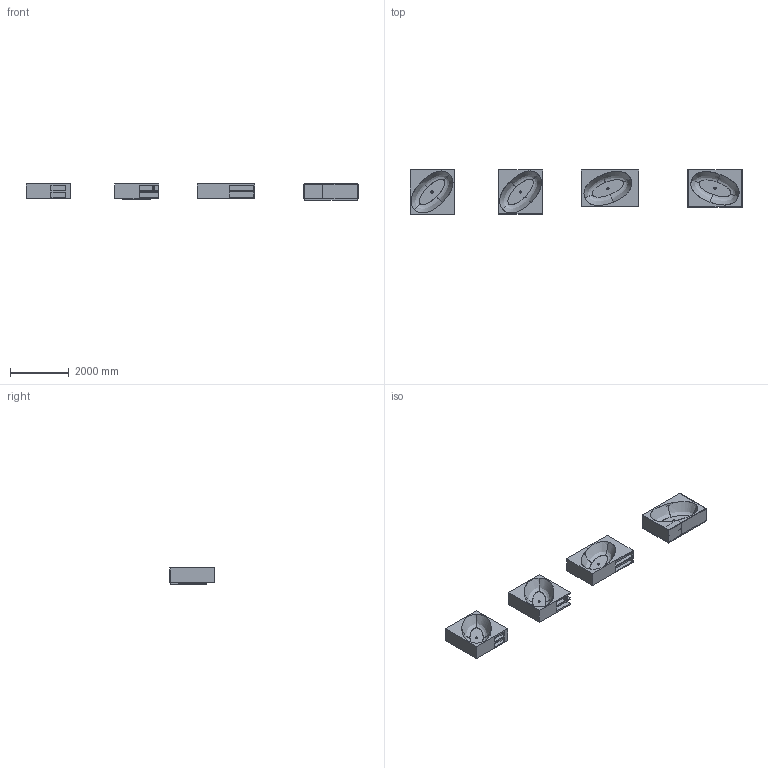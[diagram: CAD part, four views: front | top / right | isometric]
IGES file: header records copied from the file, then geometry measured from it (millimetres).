
Global section: file name: D:\Desktop\GIOVANNI\SCHEDE PRODOTTO\VASCHE\VASCHE FREESTANDING\ELISLAND_ da sistemare\3D\ELISLAND allestimenti.igs; native system: Rhinoceros ( Jan 17 2018 ); preprocessor: Trout Lake IGES 012 Jan 17 2018; date: 230531.095325; units: millimetre
Bounding box: 11311.9 x 1501 x 550.96 mm (x, y, z)
Surface area: 41830864.7 mm2 (no closed solid volume)
Topology: 0 solids, 0 shells, 270 faces, 3071 edges, 3052 vertices
Faces by surface type: bspline 270
